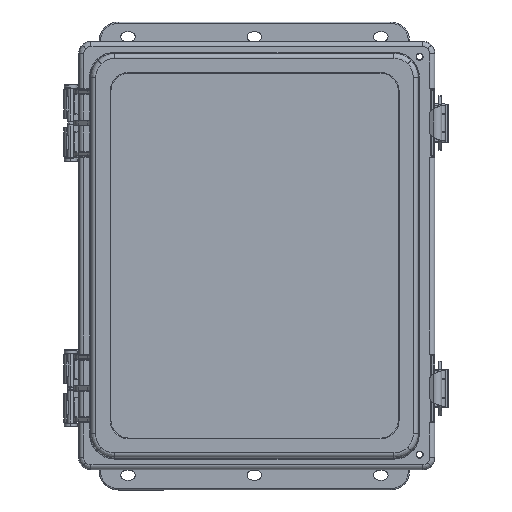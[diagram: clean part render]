
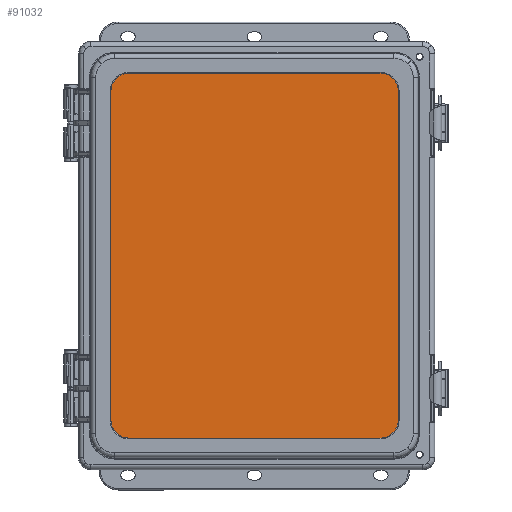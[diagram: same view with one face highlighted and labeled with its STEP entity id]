
A CAD part, top view. The second image highlights one B-rep face of the part: STEP entity #91032.
In plain terms, the highlighted planar face has unit normal (0, 0, 1) as drawn and (0, 0, -1) by its records, which use the part's own axes.
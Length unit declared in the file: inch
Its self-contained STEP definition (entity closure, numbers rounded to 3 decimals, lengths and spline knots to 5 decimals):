
#824 = VERTEX_POINT ( 'NONE', #108713 ) ;
#1602 = DIRECTION ( 'NONE',  ( -1., 0., 0. ) ) ;
#5187 = VECTOR ( 'NONE', #37015, 39.37008 ) ;
#8794 = VERTEX_POINT ( 'NONE', #82896 ) ;
#9134 = LINE ( 'NONE', #123686, #119049 ) ;
#11228 = CARTESIAN_POINT ( 'NONE',  ( -3.19666, 4.25916, -1.375 ) ) ;
#12900 = VERTEX_POINT ( 'NONE', #82701 ) ;
#14194 = AXIS2_PLACEMENT_3D ( 'NONE', #118841, #55359, #129475 ) ;
#18267 = CARTESIAN_POINT ( 'NONE',  ( 3.31039, -4.73789, -1.375 ) ) ;
#18746 = LINE ( 'NONE', #86657, #72233 ) ;
#20884 = VERTEX_POINT ( 'NONE', #18267 ) ;
#21991 = DIRECTION ( 'NONE',  ( -1., 0., 0. ) ) ;
#22903 = DIRECTION ( 'NONE',  ( 0., -1., 0. ) ) ;
#26936 = CARTESIAN_POINT ( 'NONE',  ( 3.31039, -4.25916, -1.375 ) ) ;
#28358 = DIRECTION ( 'NONE',  ( -1., 0., 0. ) ) ;
#30984 = CARTESIAN_POINT ( 'NONE',  ( -3.19666, 4.73789, -1.375 ) ) ;
#31213 = FACE_OUTER_BOUND ( 'NONE', #132776, .T. ) ;
#33676 = LINE ( 'NONE', #130834, #5187 ) ;
#34793 = ORIENTED_EDGE ( 'NONE', *, *, #53099, .T. ) ;
#36730 = AXIS2_PLACEMENT_3D ( 'NONE', #11228, #85813, #21991 ) ;
#37015 = DIRECTION ( 'NONE',  ( 1., 0., 0. ) ) ;
#37712 = DIRECTION ( 'NONE',  ( -1., 0., 0. ) ) ;
#39673 = ORIENTED_EDGE ( 'NONE', *, *, #55346, .T. ) ;
#43788 = CIRCLE ( 'NONE', #14194, 0.47873 ) ;
#48272 = VERTEX_POINT ( 'NONE', #48938 ) ;
#48938 = CARTESIAN_POINT ( 'NONE',  ( -3.67539, 4.25916, -1.375 ) ) ;
#50445 = EDGE_CURVE ( 'NONE', #113604, #125986, #95721, .T. ) ;
#52104 = EDGE_CURVE ( 'NONE', #824, #20884, #70798, .T. ) ;
#53099 = EDGE_CURVE ( 'NONE', #8794, #824, #18746, .T. ) ;
#53765 = EDGE_CURVE ( 'NONE', #12900, #8794, #43788, .T. ) ;
#53923 = EDGE_CURVE ( 'NONE', #93075, #12900, #33676, .T. ) ;
#55346 = EDGE_CURVE ( 'NONE', #48272, #93075, #99007, .T. ) ;
#55359 = DIRECTION ( 'NONE',  ( 0., 0., -1. ) ) ;
#55366 = EDGE_CURVE ( 'NONE', #48272, #125986, #89017, .T. ) ;
#56173 = DIRECTION ( 'NONE',  ( 0., 0., 1. ) ) ;
#63257 = AXIS2_PLACEMENT_3D ( 'NONE', #129145, #65810, #1602 ) ;
#65810 = DIRECTION ( 'NONE',  ( 0., 0., -1. ) ) ;
#70645 = ORIENTED_EDGE ( 'NONE', *, *, #53765, .T. ) ;
#70798 = CIRCLE ( 'NONE', #128042, 0.47873 ) ;
#72233 = VECTOR ( 'NONE', #96831, 39.37008 ) ;
#76619 = ORIENTED_EDGE ( 'NONE', *, *, #53923, .T. ) ;
#82701 = CARTESIAN_POINT ( 'NONE',  ( 3.31039, 4.73789, -1.375 ) ) ;
#82896 = CARTESIAN_POINT ( 'NONE',  ( 3.78912, 4.25916, -1.375 ) ) ;
#85813 = DIRECTION ( 'NONE',  ( 0., 0., -1. ) ) ;
#86657 = CARTESIAN_POINT ( 'NONE',  ( 3.78912, 4.25916, -1.375 ) ) ;
#86730 = CARTESIAN_POINT ( 'NONE',  ( -3.67539, 4.25916, -1.375 ) ) ;
#88127 = CARTESIAN_POINT ( 'NONE',  ( -4.625, 5.5625, -1.375 ) ) ;
#89017 = LINE ( 'NONE', #86730, #113922 ) ;
#91032 = ADVANCED_FACE ( 'NONE', ( #31213 ), #130275, .F. ) ;
#93075 = VERTEX_POINT ( 'NONE', #30984 ) ;
#95721 = CIRCLE ( 'NONE', #63257, 0.47873 ) ;
#96831 = DIRECTION ( 'NONE',  ( 0., -1., 0. ) ) ;
#98790 = DIRECTION ( 'NONE',  ( 1., 0., 0. ) ) ;
#99007 = CIRCLE ( 'NONE', #36730, 0.47873 ) ;
#101344 = DIRECTION ( 'NONE',  ( 0., 0., -1. ) ) ;
#102998 = CARTESIAN_POINT ( 'NONE',  ( -3.67539, -4.25916, -1.375 ) ) ;
#108247 = ORIENTED_EDGE ( 'NONE', *, *, #50445, .T. ) ;
#108713 = CARTESIAN_POINT ( 'NONE',  ( 3.78912, -4.25916, -1.375 ) ) ;
#108955 = ORIENTED_EDGE ( 'NONE', *, *, #119515, .T. ) ;
#112722 = ORIENTED_EDGE ( 'NONE', *, *, #55366, .F. ) ;
#113604 = VERTEX_POINT ( 'NONE', #116206 ) ;
#113922 = VECTOR ( 'NONE', #22903, 39.37008 ) ;
#116206 = CARTESIAN_POINT ( 'NONE',  ( -3.19666, -4.73789, -1.375 ) ) ;
#118841 = CARTESIAN_POINT ( 'NONE',  ( 3.31039, 4.25916, -1.375 ) ) ;
#119049 = VECTOR ( 'NONE', #28358, 39.37008 ) ;
#119515 = EDGE_CURVE ( 'NONE', #20884, #113604, #9134, .T. ) ;
#123686 = CARTESIAN_POINT ( 'NONE',  ( 3.31039, -4.73789, -1.375 ) ) ;
#125986 = VERTEX_POINT ( 'NONE', #102998 ) ;
#128042 = AXIS2_PLACEMENT_3D ( 'NONE', #26936, #101344, #37712 ) ;
#129145 = CARTESIAN_POINT ( 'NONE',  ( -3.19666, -4.25916, -1.375 ) ) ;
#129475 = DIRECTION ( 'NONE',  ( -1., 0., 0. ) ) ;
#130275 = PLANE ( 'NONE',  #133056 ) ;
#130834 = CARTESIAN_POINT ( 'NONE',  ( -3.19666, 4.73789, -1.375 ) ) ;
#132776 = EDGE_LOOP ( 'NONE', ( #108955, #108247, #112722, #39673, #76619, #70645, #34793, #137726 ) ) ;
#133056 = AXIS2_PLACEMENT_3D ( 'NONE', #88127, #56173, #98790 ) ;
#137726 = ORIENTED_EDGE ( 'NONE', *, *, #52104, .T. ) ;
